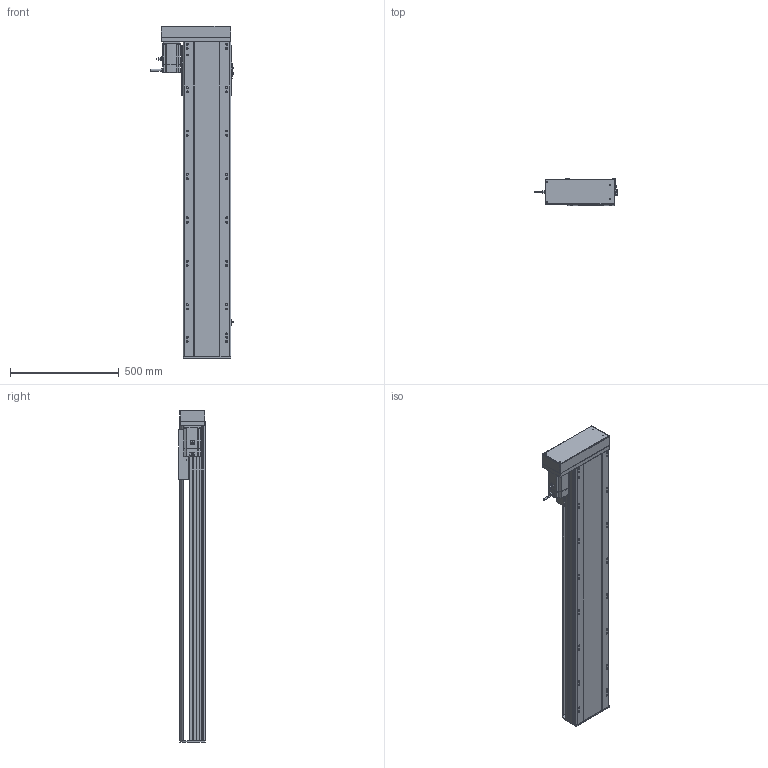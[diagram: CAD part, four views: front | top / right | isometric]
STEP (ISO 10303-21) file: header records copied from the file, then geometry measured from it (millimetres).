
FILE_DESCRIPTION (( 'STEP AP214' ), '1' );
FILE_NAME ('RTH22-XX-1150-R-M75-C4.STEP', '2025-10-25T03:13:47', ( 'Microsoft' ), ( 'Microsoft' ), 'SwSTEP 2.0', 'SolidWorks 2018', '' );
FILE_SCHEMA (( 'AUTOMOTIVE_DESIGN' ));
Length unit declared in the file: millimetre
Products named in the file (10): N_RTH22-L-011菁釱^RTH22-XX-XX-R-M75-C4; N_RTH22-L-004-SFS25賑釱^RTH22-XX-XX-R-M75-C4; N_750W萇儂^RTH22-XX-XX-R-M75-C4; N_OMRON EE-SX672 传感器^RTH22-XX-XX-R-M75-C4; RTH22-XX-1150-R-M75-C4; N_RTH22-R-008-P75萇儂啣^RTH22-XX-XX-R-M75-C4; N_RTH22-L-018裔赽^RTH22-XX-XX-R-M75-C4; N_RTH22-L-007奻裔^RTH22-XX-XX-R-M75-C4; N_RTH22-GY-001耜裔^RTH22-XX-XX-R-M75-C4; N_RTH22-GY-013外置感应片^RTH22-XX-XX-R-M75-C4
Assembly tree (11 placements, depth 2):
  RTH22-XX-1150-R-M75-C4
    N_RTH22-L-011菁釱^RTH22-XX-XX-R-M75-C4
    N_RTH22-GY-001耜裔^RTH22-XX-XX-R-M75-C4
    N_750W萇儂^RTH22-XX-XX-R-M75-C4
    N_RTH22-R-008-P75萇儂啣^RTH22-XX-XX-R-M75-C4
    N_RTH22-L-007奻裔^RTH22-XX-XX-R-M75-C4
    N_OMRON EE-SX672 传感器^RTH22-XX-XX-R-M75-C4  x3
    N_RTH22-GY-013外置感应片^RTH22-XX-XX-R-M75-C4
    N_RTH22-L-004-SFS25賑釱^RTH22-XX-XX-R-M75-C4
    N_RTH22-L-018裔赽^RTH22-XX-XX-R-M75-C4
Bounding box: 384.7 x 122 x 1529.7 mm (x, y, z)
Volume: 20677644.4 mm3; surface area: 2288462.4 mm2
Topology: 11 solids, 11 shells, 1610 faces, 4397 edges, 2833 vertices
Faces by surface type: plane 795, cylinder 474, bspline 279, cone 62
Entity records: 40625 total; most frequent: CARTESIAN_POINT 12350, ORIENTED_EDGE 5762, DIRECTION 5447, EDGE_CURVE 2881, VERTEX_POINT 1869, AXIS2_PLACEMENT_3D 1838, LINE 1771, VECTOR 1771
